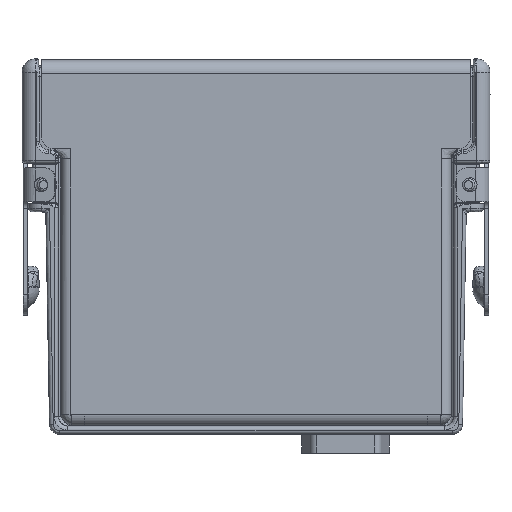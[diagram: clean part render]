
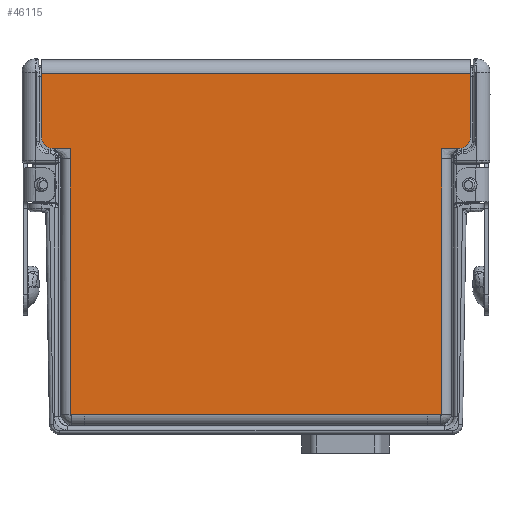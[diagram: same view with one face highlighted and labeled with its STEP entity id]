
A CAD part, left-side view. The second image highlights one B-rep face of the part: STEP entity #46115.
In plain terms, the highlighted planar face has unit normal (-1, 0, 0).
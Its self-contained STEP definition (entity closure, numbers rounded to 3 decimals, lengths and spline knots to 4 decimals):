
#17413=DIRECTION('',(0.,-1.,0.));
#17414=VECTOR('',#17413,3.179);
#17415=CARTESIAN_POINT('',(-0.4475,1.5895,2.676));
#17416=LINE('',#17415,#17414);
#17613=CARTESIAN_POINT('',(-0.4475,1.5095,2.2));
#17614=DIRECTION('',(-1.,0.,0.));
#17615=DIRECTION('',(0.,1.,0.));
#17616=AXIS2_PLACEMENT_3D('',#17613,#17614,#17615);
#17618=DIRECTION('',(0.,-1.,0.));
#17619=VECTOR('',#17618,0.133);
#17620=CARTESIAN_POINT('',(-0.4475,1.5095,2.12));
#17621=LINE('',#17620,#17619);
#17630=DIRECTION('',(0.,0.,-1.));
#17631=VECTOR('',#17630,0.476);
#17632=CARTESIAN_POINT('',(-0.4475,1.5895,2.676));
#17633=LINE('',#17632,#17631);
#17634=DIRECTION('',(0.,0.,1.));
#17635=VECTOR('',#17634,0.476);
#17636=CARTESIAN_POINT('',(-0.4475,-1.5895,2.2));
#17637=LINE('',#17636,#17635);
#17638=DIRECTION('',(0.,0.,1.));
#17639=VECTOR('',#17638,0.079);
#17640=CARTESIAN_POINT('',(-0.4475,-1.3765,2.041));
#17641=LINE('',#17640,#17639);
#17642=DIRECTION('',(0.,-1.,0.));
#17643=VECTOR('',#17642,0.105);
#17644=CARTESIAN_POINT('',(-0.4475,-1.2715,0.146));
#17645=LINE('',#17644,#17643);
#17646=DIRECTION('',(0.,-1.,0.));
#17647=VECTOR('',#17646,0.105);
#17648=CARTESIAN_POINT('',(-0.4475,1.3765,0.146));
#17649=LINE('',#17648,#17647);
#17650=DIRECTION('',(0.,0.,1.));
#17651=VECTOR('',#17650,0.079);
#17652=CARTESIAN_POINT('',(-0.4475,1.3765,2.041));
#17653=LINE('',#17652,#17651);
#17671=CARTESIAN_POINT('',(-0.4475,-1.5095,2.2));
#17672=DIRECTION('',(-1.,0.,0.));
#17673=DIRECTION('',(0.,0.,-1.));
#17674=AXIS2_PLACEMENT_3D('',#17671,#17672,#17673);
#17684=DIRECTION('',(0.,-1.,0.));
#17685=VECTOR('',#17684,0.133);
#17686=CARTESIAN_POINT('',(-0.4475,-1.3765,2.12));
#17687=LINE('',#17686,#17685);
#17719=DIRECTION('',(0.,0.,1.));
#17720=VECTOR('',#17719,1.895);
#17721=CARTESIAN_POINT('',(-0.4475,-1.3765,0.146));
#17722=LINE('',#17721,#17720);
#17910=DIRECTION('',(0.,-1.,0.));
#17911=VECTOR('',#17910,2.543);
#17912=CARTESIAN_POINT('',(-0.4475,1.2715,0.146));
#17913=LINE('',#17912,#17911);
#19012=DIRECTION('',(0.,0.,1.));
#19013=VECTOR('',#19012,1.895);
#19014=CARTESIAN_POINT('',(-0.4475,1.3765,0.146));
#19015=LINE('',#19014,#19013);
#22806=CARTESIAN_POINT('',(-0.4475,-1.5895,2.676));
#22807=VERTEX_POINT('',#22806);
#22808=CARTESIAN_POINT('',(-0.4475,1.5895,2.676));
#22809=VERTEX_POINT('',#22808);
#22838=CARTESIAN_POINT('',(-0.4475,1.2715,0.146));
#22839=CARTESIAN_POINT('',(-0.4475,-1.2715,0.146));
#22840=VERTEX_POINT('',#22838);
#22841=VERTEX_POINT('',#22839);
#22850=CARTESIAN_POINT('',(-0.4475,-1.3765,0.146));
#22851=VERTEX_POINT('',#22850);
#22862=CARTESIAN_POINT('',(-0.4475,1.3765,0.146));
#22863=VERTEX_POINT('',#22862);
#22911=CARTESIAN_POINT('',(-0.4475,1.5095,2.12));
#22913=VERTEX_POINT('',#22911);
#22916=CARTESIAN_POINT('',(-0.4475,1.5895,2.2));
#22917=VERTEX_POINT('',#22916);
#22919=CARTESIAN_POINT('',(-0.4475,-1.5895,2.2));
#22921=VERTEX_POINT('',#22919);
#22924=CARTESIAN_POINT('',(-0.4475,-1.5095,2.12));
#22925=VERTEX_POINT('',#22924);
#22938=CARTESIAN_POINT('',(-0.4475,-1.3765,2.041));
#22939=VERTEX_POINT('',#22938);
#22942=CARTESIAN_POINT('',(-0.4475,-1.3765,2.12));
#22943=VERTEX_POINT('',#22942);
#22950=CARTESIAN_POINT('',(-0.4475,1.3765,2.041));
#22951=CARTESIAN_POINT('',(-0.4475,1.3765,2.12));
#22952=VERTEX_POINT('',#22950);
#22953=VERTEX_POINT('',#22951);
#46083=CARTESIAN_POINT('',(-0.4475,0.,1.421));
#46084=DIRECTION('',(-1.,0.,0.));
#46085=DIRECTION('',(0.,1.,0.));
#46086=AXIS2_PLACEMENT_3D('',#46083,#46084,#46085);
#46087=PLANE('',#46086);
#46088=ORIENTED_EDGE('',*,*,#46064,.F.);
#46090=ORIENTED_EDGE('',*,*,#46089,.F.);
#46091=ORIENTED_EDGE('',*,*,#45876,.T.);
#46093=ORIENTED_EDGE('',*,*,#46092,.F.);
#46095=ORIENTED_EDGE('',*,*,#46094,.F.);
#46097=ORIENTED_EDGE('',*,*,#46096,.F.);
#46099=ORIENTED_EDGE('',*,*,#46098,.F.);
#46101=ORIENTED_EDGE('',*,*,#46100,.F.);
#46103=ORIENTED_EDGE('',*,*,#46102,.F.);
#46105=ORIENTED_EDGE('',*,*,#46104,.F.);
#46107=ORIENTED_EDGE('',*,*,#46106,.F.);
#46109=ORIENTED_EDGE('',*,*,#46108,.T.);
#46111=ORIENTED_EDGE('',*,*,#46110,.T.);
#46112=ORIENTED_EDGE('',*,*,#46075,.F.);
#46113=EDGE_LOOP('',(#46088,#46090,#46091,#46093,#46095,#46097,#46099,#46101,
#46103,#46105,#46107,#46109,#46111,#46112));
#46114=FACE_OUTER_BOUND('',#46113,.F.);
#46115=ADVANCED_FACE('',(#46114),#46087,.T.);
#17617=CIRCLE('',#17616,0.08);
#17675=CIRCLE('',#17674,0.08);
#45876=EDGE_CURVE('',#22809,#22807,#17416,.T.);
#46064=EDGE_CURVE('',#22917,#22913,#17617,.T.);
#46075=EDGE_CURVE('',#22913,#22953,#17621,.T.);
#46089=EDGE_CURVE('',#22809,#22917,#17633,.T.);
#46092=EDGE_CURVE('',#22921,#22807,#17637,.T.);
#46094=EDGE_CURVE('',#22925,#22921,#17675,.T.);
#46096=EDGE_CURVE('',#22943,#22925,#17687,.T.);
#46098=EDGE_CURVE('',#22939,#22943,#17641,.T.);
#46100=EDGE_CURVE('',#22851,#22939,#17722,.T.);
#46102=EDGE_CURVE('',#22841,#22851,#17645,.T.);
#46104=EDGE_CURVE('',#22840,#22841,#17913,.T.);
#46106=EDGE_CURVE('',#22863,#22840,#17649,.T.);
#46108=EDGE_CURVE('',#22863,#22952,#19015,.T.);
#46110=EDGE_CURVE('',#22952,#22953,#17653,.T.);
